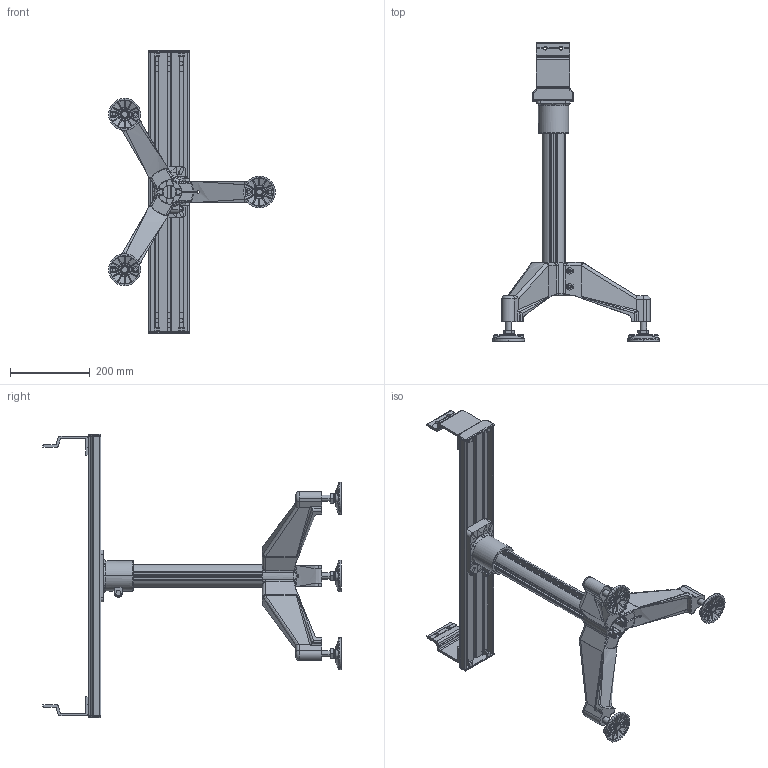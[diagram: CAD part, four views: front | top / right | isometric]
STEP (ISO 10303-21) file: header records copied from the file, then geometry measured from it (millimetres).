
FILE_DESCRIPTION (( 'STEP AP214' ), '1' );
FILE_NAME ('F2-2400-P3.STEP', '2011-04-13T11:24:31', ( '.' ), ( '' ), 'SwSTEP 2.0', 'SolidWorks 2010', '' );
FILE_SCHEMA (( 'AUTOMOTIVE_DESIGN' ));
Length unit declared in the file: millimetre
Products named in the file (11): Écrou M16 tripode_Default; F2-2400-P3; 331-4.t皻e d ''appui tripode; EPR pied FlexToo tripode_F2-2400<Brut d''usinage>; FAHBS-84 tripode_Avec lumière; EMEPR tripode; TUA-60-4R_0662; 331-3-NU tripode; Tige fileté tripode; Semelle tripode; 331-80 tripode
Assembly tree (14 placements, depth 3):
  F2-2400-P3
    331-80 tripode  x3
      Tige fileté tripode
      Écrou M16 tripode_Default
      Semelle tripode
    EMEPR tripode  x2
    EPR pied FlexToo tripode_F2-2400<Brut d''usinage>
    TUA-60-4R_0662
    331-3-NU tripode
    FAHBS-84 tripode_Avec lumière  x2
    331-4.t皻e d ''appui tripode
Bounding box: 418.25 x 750.06 x 711 mm (x, y, z)
Volume: 3877570.9 mm3; surface area: 987802.3 mm2
Topology: 17 solids, 17 shells, 1556 faces, 4161 edges, 2642 vertices
Faces by surface type: plane 589, cylinder 402, torus 190, cone 169, bspline 152, sphere 54
Entity records: 37930 total; most frequent: CARTESIAN_POINT 11759, ORIENTED_EDGE 5116, DIRECTION 4659, EDGE_CURVE 2558, AXIS2_PLACEMENT_3D 1728, VERTEX_POINT 1628, LINE 1203, VECTOR 1203
